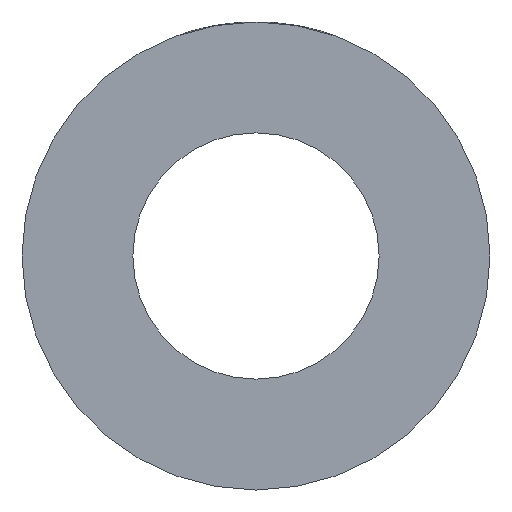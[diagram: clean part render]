
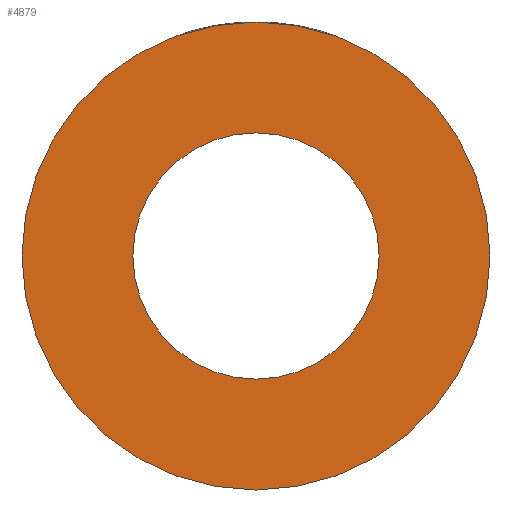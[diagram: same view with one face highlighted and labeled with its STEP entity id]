
A CAD part, left-side view. The second image highlights one B-rep face of the part: STEP entity #4879.
In plain terms, the highlighted planar face has unit normal (-1, 0, 0).
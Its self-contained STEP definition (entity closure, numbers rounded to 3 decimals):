
#112=PLANE('',#5260);
#336=CIRCLE('',#5259,9.5);
#337=CIRCLE('',#5261,5.);
#1454=ORIENTED_EDGE('',*,*,#2924,.T.);
#1455=ORIENTED_EDGE('',*,*,#2923,.F.);
#2923=EDGE_CURVE('',#3657,#3657,#336,.T.);
#2924=EDGE_CURVE('',#3658,#3658,#337,.T.);
#3657=VERTEX_POINT('',#7614);
#3658=VERTEX_POINT('',#7617);
#4150=EDGE_LOOP('',(#1454));
#4151=EDGE_LOOP('',(#1455));
#4508=FACE_BOUND('',#4150,.T.);
#4509=FACE_BOUND('',#4151,.T.);
#4879=ADVANCED_FACE('',(#4508,#4509),#112,.F.);
#5259=AXIS2_PLACEMENT_3D('',#7613,#5763,#5764);
#5260=AXIS2_PLACEMENT_3D('',#7615,#5765,#5766);
#5261=AXIS2_PLACEMENT_3D('',#7616,#5767,#5768);
#5763=DIRECTION('',(1.,0.,0.));
#5764=DIRECTION('',(0.,0.,-1.));
#5765=DIRECTION('',(1.,0.,0.));
#5766=DIRECTION('',(0.,0.,-1.));
#5767=DIRECTION('',(1.,0.,0.));
#5768=DIRECTION('',(0.,0.,-1.));
#7613=CARTESIAN_POINT('',(-14.5,0.,0.));
#7614=CARTESIAN_POINT('',(-14.5,0.,-9.5));
#7615=CARTESIAN_POINT('',(-14.5,0.,0.));
#7616=CARTESIAN_POINT('',(-14.5,0.,0.));
#7617=CARTESIAN_POINT('',(-14.5,0.,-5.));
